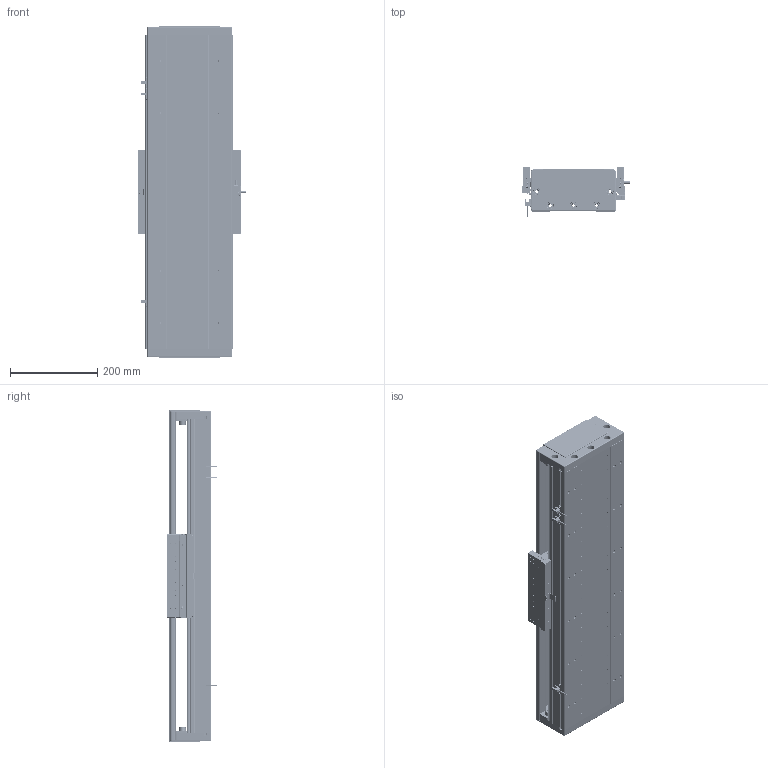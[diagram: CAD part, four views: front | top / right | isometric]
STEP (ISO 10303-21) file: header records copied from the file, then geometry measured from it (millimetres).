
FILE_DESCRIPTION (( 'STEP AP203' ), '1' );
FILE_NAME ('DA-C195-C2-T480-C010-0.2 眻盄萇儂.STEP', '2025-08-15T01:00:19', ( '' ), ( '' ), 'SwSTEP 2.0', 'SolidWorks 2019', '' );
FILE_SCHEMA (( 'CONFIG_CONTROL_DESIGN' ));
Length unit declared in the file: millimetre
Products named in the file (12): MS200 棠掑喜S315-T240; DA195-DG-H-00  端盖（压铸镂空版）; 66156-0001-005-00 光电感应片(默认); DA95-HXJ-00 遣喳砎蝶; LMT黍杅芛; DA-C195-C2-T480-C010-0.2 眻盄萇儂; 葩璃 DA95-GT-T-00; 66156-0001-003-00 裔啣; PM-T45ㄗ侂狟ㄘ; CU195-C2賑輸-俋楷; IU-CU195-L 菁釱絳寢; IU-CU195-L-00 菁釱(L720)
Assembly tree (20 placements, depth 3):
  DA-C195-C2-T480-C010-0.2 眻盄萇儂
    IU-CU195-L 菁釱絳寢
      IU-CU195-L-00 菁釱(L720)
      葩璃 DA95-GT-T-00  x4
    LMT黍杅芛
    MS200 棠掑喜S315-T240
    PM-T45ㄗ侂狟ㄘ  x3
    66156-0001-005-00 光电感应片(默认)
    DA195-DG-H-00  端盖（压铸镂空版）  x2
    DA95-HXJ-00 遣喳砎蝶  x4
    66156-0001-003-00 裔啣
    CU195-C2賑輸-俋楷
Bounding box: 248 x 115.6 x 760 mm (x, y, z)
Volume: 5862260.4 mm3; surface area: 1659158.4 mm2
Topology: 58 solids, 130 shells, 5063 faces, 12692 edges, 7673 vertices
Faces by surface type: cylinder 2085, plane 1628, bspline 710, cone 560, torus 44, sphere 36
Entity records: 135381 total; most frequent: CARTESIAN_POINT 41291, ORIENTED_EDGE 19438, DIRECTION 19024, EDGE_CURVE 9719, AXIS2_PLACEMENT_3D 7067, VERTEX_POINT 6103, LINE 4890, VECTOR 4890
